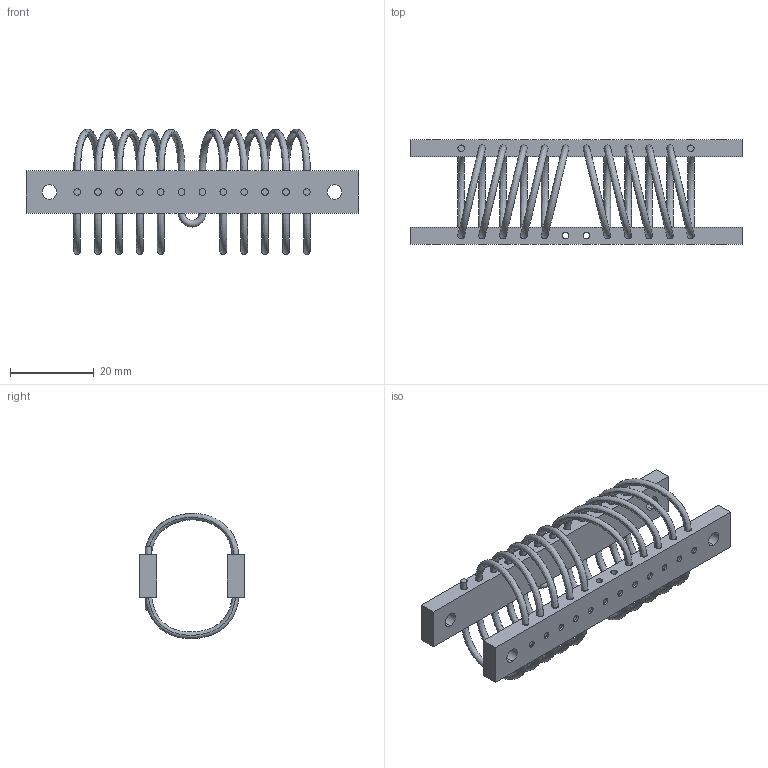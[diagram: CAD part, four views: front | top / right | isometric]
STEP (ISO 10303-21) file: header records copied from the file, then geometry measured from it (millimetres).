
FILE_DESCRIPTION (( 'STEP AP214' ), '1' );
FILE_NAME ('WR2-400-10DM.STEP', '2018-12-07T09:44:40', ( 'user' ), ( 'Microsoft' ), 'SwSTEP 2.0', 'SolidWorks 2016', '' );
FILE_SCHEMA (( 'AUTOMOTIVE_DESIGN' ));
Length unit declared in the file: millimetre
Products named in the file (1): WR2-400-10DM
Bounding box: 79.5 x 25 x 29.98 mm (x, y, z)
Volume: 7696.9 mm3; surface area: 10408.5 mm2
Topology: 25 solids, 25 shells, 316 faces, 702 edges, 460 vertices
Faces by surface type: cylinder 192, plane 82, bspline 40, torus 2
Entity records: 18842 total; most frequent: CARTESIAN_POINT 11659, ORIENTED_EDGE 1404, DIRECTION 1382, EDGE_CURVE 702, AXIS2_PLACEMENT_3D 583, VERTEX_POINT 460, EDGE_LOOP 396, ADVANCED_FACE 316
